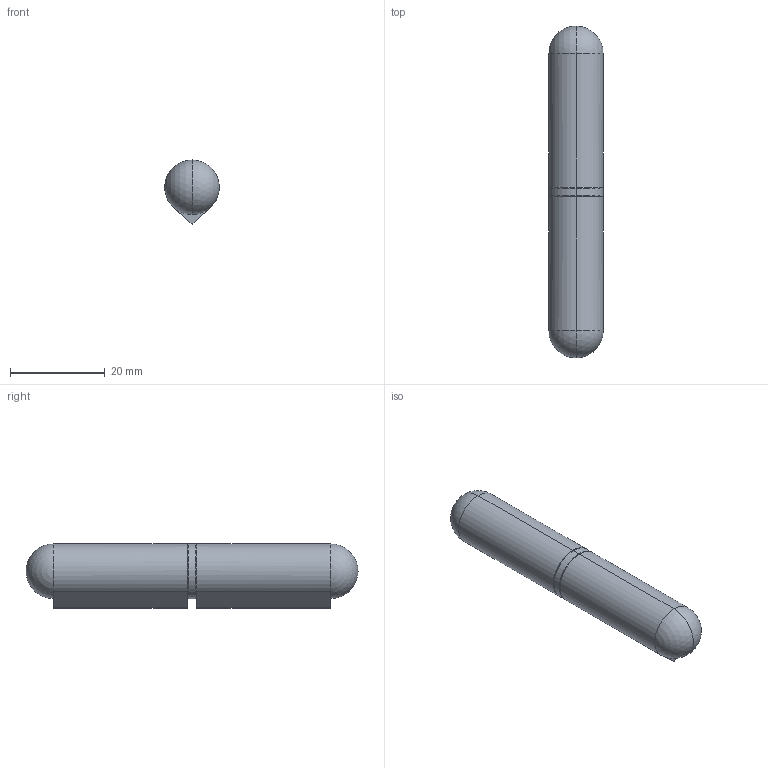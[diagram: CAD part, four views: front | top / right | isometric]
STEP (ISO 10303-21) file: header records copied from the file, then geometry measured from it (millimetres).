
FILE_DESCRIPTION (( 'STEP AP214' ), '1' );
FILE_NAME ('7011.00.070.STEP', '2021-01-21T03:38:47', ( '' ), ( '' ), 'SwSTEP 2.0', 'SolidWorks 2018', '' );
FILE_SCHEMA (( 'AUTOMOTIVE_DESIGN' ));
Length unit declared in the file: millimetre
Products named in the file (4): 7011.00-2_7011.00.070; 7011.00.070; 7011.00-3_7011.00.070; 7011.00-1_7004.00.070
Assembly tree (4 placements, depth 2):
  7011.00.070
    7011.00-1_7004.00.070  x2
    7011.00-2_7011.00.070
    7011.00-3_7011.00.070
Bounding box: 11.5 x 70 x 13.5 mm (x, y, z)
Volume: 7077 mm3; surface area: 5090.6 mm2
Topology: 4 solids, 4 shells, 45 faces, 104 edges, 63 vertices
Faces by surface type: cylinder 18, plane 13, torus 8, sphere 6
Entity records: 1100 total; most frequent: DIRECTION 188, CARTESIAN_POINT 142, ORIENTED_EDGE 128, AXIS2_PLACEMENT_3D 85, EDGE_CURVE 64, CIRCLE 46, VERTEX_POINT 39, EDGE_LOOP 35
